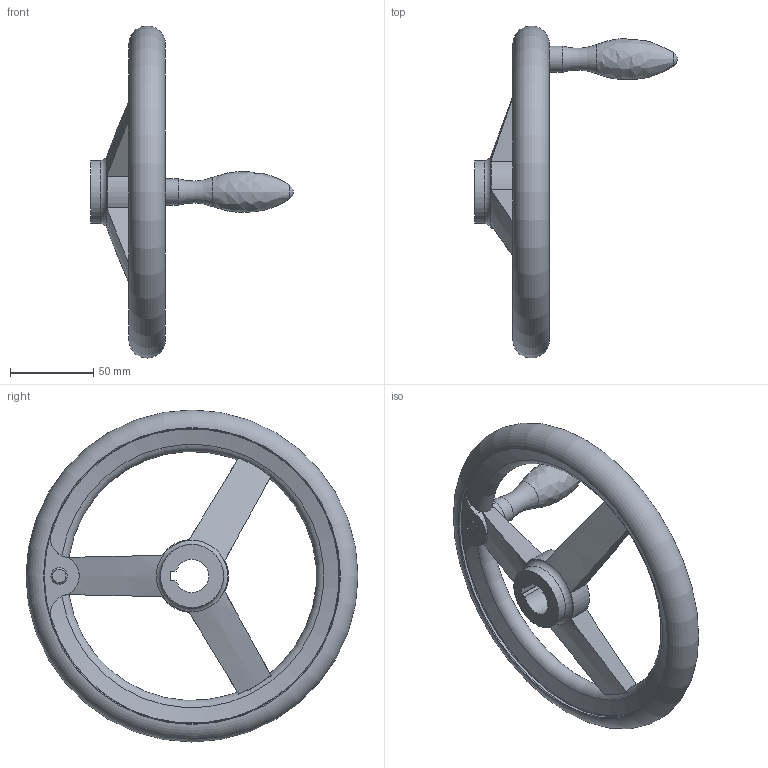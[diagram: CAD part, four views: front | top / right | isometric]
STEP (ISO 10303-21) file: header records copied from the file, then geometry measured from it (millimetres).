
FILE_DESCRIPTION( ( 'STEP AP203' ), '1' );
FILE_NAME( 'C:/Temp/Ganter_Step_05_03_2020/data/1_3/din_950/din_950_k/din_950_k_f/Handwheel DIN 950-AL-200-K20-F.stp', '2020-03-05T10:31:19', ( 'License CC BY-ND 4.0' ), ( 'CADENAS' ), ' ', 'PARTsolutions', ' ' );
FILE_SCHEMA( ( 'CONFIG_CONTROL_DESIGN' ) );
Length unit declared in the file: millimetre
Products named in the file (1): _Handwheel DIN 950-AL-200-K20-F
Bounding box: 122 x 199.99 x 199.99 mm (x, y, z)
Volume: 296001.8 mm3; surface area: 63654.2 mm2
Topology: 1 solids, 1 shells, 54 faces, 154 edges, 99 vertices
Faces by surface type: cylinder 18, torus 15, plane 14, cone 5, sphere 1, bspline 1
Full cylindrical faces by diameter (mm): 10 x1, 15.8 x1, 38 x2, 178 x2
Entity records: 2088 total; most frequent: CARTESIAN_POINT 799, ORIENTED_EDGE 254, DIRECTION 240, EDGE_CURVE 127, AXIS2_PLACEMENT_3D 107, VERTEX_POINT 93, EDGE_LOOP 78, FACE_OUTER_BOUND 69
